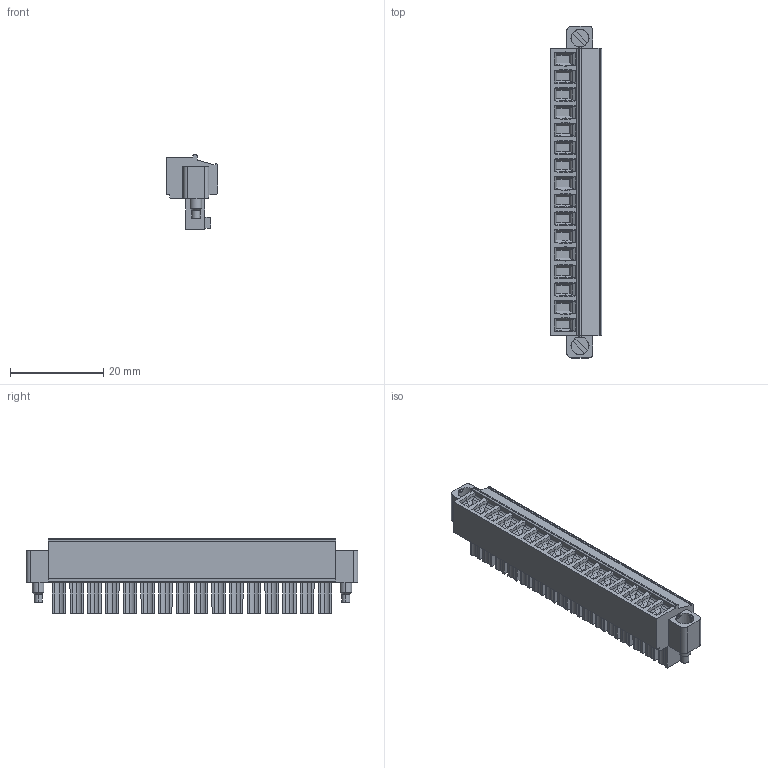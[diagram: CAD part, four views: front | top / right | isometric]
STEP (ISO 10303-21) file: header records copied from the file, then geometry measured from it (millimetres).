
FILE_DESCRIPTION((''),'2;1');
FILE_NAME('CONN_CRIO_16_POS_CMBCN','2007-01-25T',('chrisj'),(''),'PRO/ENGINEER BY PARAMETRIC TECHNOLOGY CORPORATION, 2006080','PRO/ENGINEER BY PARAMETRIC TECHNOLOGY CORPORATION, 2006080','');
FILE_SCHEMA(('AUTOMOTIVE_DESIGN_CC2 { 1 2 10303 214 -1 1 5 2 }'));
Length unit declared in the file: inch
Products named in the file (1): CONN_CRIO_16_POS_CMBCN
Bounding box: 11.1 x 71.35 x 16.1 mm (x, y, z)
Volume: 6519.1 mm3; surface area: 5729.4 mm2
Topology: 1 solids, 1 shells, 1218 faces, 3209 edges, 2070 vertices
Faces by surface type: plane 644, cylinder 378, torus 96, cone 68, sphere 32
Entity records: 38361 total; most frequent: CARTESIAN_POINT 8341, ORIENTED_EDGE 6354, DIRECTION 6137, EDGE_CURVE 3177, AXIS2_PLACEMENT_3D 2174, VERTEX_POINT 2070, VECTOR 1789, LINE 1789
